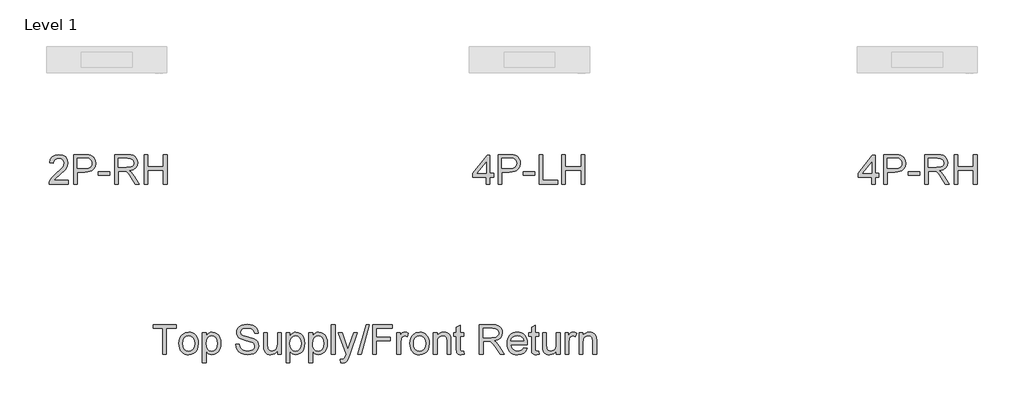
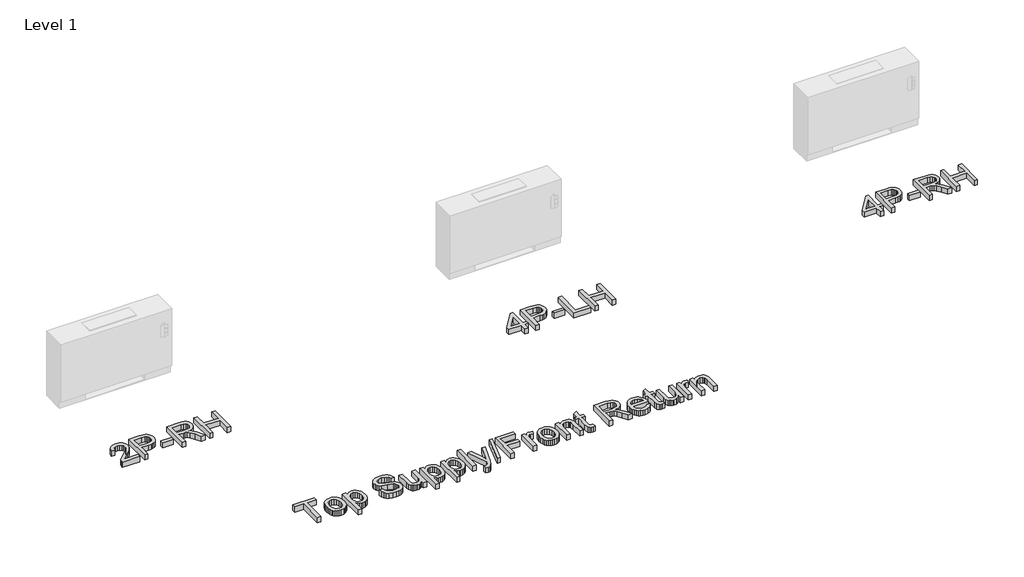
# One storey, part 3 of 3: 4 proxies.
"""IFC4 building model written with IfcOpenShell, lengths in millimetres."""

from ifc_helpers import new_model, si_unit, origin, origin_with_axes, place, context, project, spatial, polyline, outline, extrude, element, save

model = new_model("IFC4")

# Units and contexts
model_context = context("Model", 3, world=origin())
ifc_project = project(units=[si_unit("LENGTHUNIT", "METRE", prefix="MILLI")], contexts=[model_context])

# Site, building, storey
site = spatial("IfcSite", under=ifc_project)
building = spatial("IfcBuilding", under=site)
storey = spatial("IfcBuildingStorey", under=building, Name="Level 1", Elevation=0.0)

# Proxies
placement = place(None, origin())
element("IfcBuildingElementProxy", 1, Name="24\" Arial", ObjectType="24\" Arial", at=placement, inside=storey, context=model_context, shape_type="SweptSolid", body=[
    extrude(outline(polyline([(2472.5902636, -2291.4337764), (2472.5902636, -2231.6308793), (2356.9713292, -2231.6308793), (2356.9713292, -2199.7360008), (2480.5639833, -2040.2616085), (2504.4851421, -2040.2616085), (2504.4851421, -2199.7360008), (2536.3800206, -2199.7360008), (2536.3800206, -2231.6308793), (2504.4851421, -2231.6308793), (2504.4851421, -2291.4337764), (2472.5902636, -2291.4337764)]), holes=[polyline([(2472.5902636, -2199.7360008), (2472.5902636, -2101.1858099), (2396.2169804, -2199.7360008), (2472.5902636, -2199.7360008)])]), origin_with_axes(), (0.0, 0.0, 1.0), 50.8),
    extrude(outline(polyline([(2576.2486187, -2291.4337764), (2576.2486187, -2036.2747487), (2670.8119498, -2036.2747487), (2708.9362967, -2038.7042414), (2725.9349587, -2043.2439665), (2739.9279022, -2050.6336734), (2751.1954533, -2061.2081961), (2760.017938, -2075.3023685), (2765.7179016, -2091.9272624), (2767.6178895, -2110.0939498), (2762.4863649, -2140.1667088), (2747.091791, -2165.2247456), (2734.7632836, -2175.0906663), (2718.3038599, -2182.1377525), (2697.7135199, -2186.3660042), (2672.9922637, -2187.7754214), (2608.1434971, -2187.7754214), (2608.1434971, -2291.4337764), (2576.2486187, -2291.4337764)]), holes=[polyline([(2608.1434971, -2155.8805429), (2674.8611043, -2155.8805429), (2703.142891, -2152.9526928), (2721.8312964, -2144.1691422), (2732.2500824, -2130.0749699), (2735.723011, -2111.2152541), (2733.6750733, -2096.8874767), (2727.53126, -2084.8023079), (2718.0546811, -2075.707284), (2706.0084465, -2070.3499411), (2674.113568, -2068.1696271), (2608.1434971, -2068.1696271), (2608.1434971, -2155.8805429)])]), origin_with_axes(), (0.0, 0.0, 1.0), 50.8),
    extrude(outline(polyline([(2791.5390484, -2215.6834401), (2791.5390484, -2183.7885616), (2891.2105436, -2183.7885616), (2891.2105436, -2215.6834401), (2791.5390484, -2215.6834401)])), origin_with_axes(), (0.0, 0.0, 1.0), 50.8),
    extrude(outline(polyline([(2931.0791417, -2291.4337764), (2931.0791417, -2036.2747487), (2962.9740202, -2036.2747487), (2962.9740202, -2259.538898), (3090.553534, -2259.538898), (3090.553534, -2291.4337764), (2931.0791417, -2291.4337764)])), origin_with_axes(), (0.0, 0.0, 1.0), 50.8),
    extrude(outline(polyline([(3126.4352723, -2291.4337764), (3126.4352723, -2036.2747487), (3158.3301508, -2036.2747487), (3158.3301508, -2139.9331037), (3293.8833843, -2139.9331037), (3293.8833843, -2036.2747487), (3325.7782628, -2036.2747487), (3325.7782628, -2291.4337764), (3293.8833843, -2291.4337764), (3293.8833843, -2171.8279822), (3158.3301508, -2171.8279822), (3158.3301508, -2291.4337764), (3126.4352723, -2291.4337764)])), origin_with_axes(), (0.0, 0.0, 1.0), 50.8),
])
element("IfcBuildingElementProxy", 2, Name="24\" Arial", ObjectType="24\" Arial", at=placement, inside=storey, context=model_context, shape_type="SweptSolid", body=[
    extrude(outline(polyline([(5805.7276029, -2291.4337764), (5805.7276029, -2231.6308793), (5690.1086684, -2231.6308793), (5690.1086684, -2199.7360008), (5813.7013225, -2040.2616085), (5837.6224813, -2040.2616085), (5837.6224813, -2199.7360008), (5869.5173598, -2199.7360008), (5869.5173598, -2231.6308793), (5837.6224813, -2231.6308793), (5837.6224813, -2291.4337764), (5805.7276029, -2291.4337764)]), holes=[polyline([(5805.7276029, -2199.7360008), (5805.7276029, -2101.1858099), (5729.3543196, -2199.7360008), (5805.7276029, -2199.7360008)])]), origin_with_axes(), (0.0, 0.0, 1.0), 50.8),
    extrude(outline(polyline([(5909.3859579, -2291.4337764), (5909.3859579, -2036.2747487), (6003.949289, -2036.2747487), (6042.0736359, -2038.7042414), (6059.0722979, -2043.2439665), (6073.0652415, -2050.6336734), (6084.3327925, -2061.2081961), (6093.1552772, -2075.3023685), (6098.8552408, -2091.9272624), (6100.7552287, -2110.0939498), (6095.6237041, -2140.1667088), (6080.2291302, -2165.2247456), (6067.9006228, -2175.0906663), (6051.4411991, -2182.1377525), (6030.8508592, -2186.3660042), (6006.1296029, -2187.7754214), (5941.2808364, -2187.7754214), (5941.2808364, -2291.4337764), (5909.3859579, -2291.4337764)]), holes=[polyline([(5941.2808364, -2155.8805429), (6007.9984435, -2155.8805429), (6036.2802302, -2152.9526928), (6054.9686356, -2144.1691422), (6065.3874216, -2130.0749699), (6068.8603503, -2111.2152541), (6066.8124125, -2096.8874767), (6060.6685992, -2084.8023079), (6051.1920204, -2075.707284), (6039.1457857, -2070.3499411), (6007.2509073, -2068.1696271), (5941.2808364, -2068.1696271), (5941.2808364, -2155.8805429)])]), origin_with_axes(), (0.0, 0.0, 1.0), 50.8),
    extrude(outline(polyline([(6124.6763876, -2215.6834401), (6124.6763876, -2183.7885616), (6224.3478828, -2183.7885616), (6224.3478828, -2215.6834401), (6124.6763876, -2215.6834401)])), origin_with_axes(), (0.0, 0.0, 1.0), 50.8),
    extrude(outline(polyline([(6264.2164809, -2291.4337764), (6264.2164809, -2036.2747487), (6374.1665991, -2036.2747487), (6403.71764, -2037.9956393), (6425.217093, -2043.1583113), (6440.9309272, -2052.689398), (6453.1251117, -2067.5155329), (6460.9508814, -2085.9002517), (6463.5594713, -2106.10709), (6459.2377776, -2131.2429952), (6446.2726964, -2152.0805672), (6424.2748859, -2167.3583385), (6392.8550044, -2175.814842), (6410.9827576, -2189.4573779), (6436.8350517, -2222.2866766), (6479.3823212, -2291.4337764), (6442.3169839, -2291.4337764), (6409.1139171, -2238.5455893), (6385.1304635, -2203.5359766), (6368.2797514, -2186.9967378), (6353.1109957, -2180.9230061), (6334.6094744, -2179.8017018), (6296.1113594, -2179.8017018), (6296.1113594, -2291.4337764), (6264.2164809, -2291.4337764)]), holes=[polyline([(6296.1113594, -2147.9068233), (6367.5010678, -2147.9068233), (6403.9123109, -2143.3904587), (6415.888464, -2137.5191847), (6424.5941462, -2128.9380919), (6429.8969812, -2118.5582401), (6431.6645929, -2107.290689), (6428.2928931, -2091.7325915), (6418.1777937, -2079.1957863), (6400.7742162, -2070.9261669), (6375.5370821, -2068.1696271), (6296.1113594, -2068.1696271), (6296.1113594, -2147.9068233)])]), origin_with_axes(), (0.0, 0.0, 1.0), 50.8),
    extrude(outline(polyline([(6519.3755087, -2291.4337764), (6519.3755087, -2036.2747487), (6551.2703871, -2036.2747487), (6551.2703871, -2139.9331037), (6686.8236207, -2139.9331037), (6686.8236207, -2036.2747487), (6718.7184991, -2036.2747487), (6718.7184991, -2291.4337764), (6686.8236207, -2291.4337764), (6686.8236207, -2171.8279822), (6551.2703871, -2171.8279822), (6551.2703871, -2291.4337764), (6519.3755087, -2291.4337764)])), origin_with_axes(), (0.0, 0.0, 1.0), 50.8),
])
element("IfcBuildingElementProxy", 3, Name="24\" Arial", ObjectType="24\" Arial", at=placement, inside=storey, context=model_context, shape_type="SweptSolid", body=[
    extrude(outline(polyline([(-1140.457121, -2259.538898), (-1140.457121, -2291.4337764), (-1307.905233, -2291.4337764), (-1304.4790253, -2269.4437528), (-1296.6143214, -2252.2582067), (-1285.1053785, -2235.5865918), (-1245.1744857, -2198.6146965), (-1210.7566725, -2168.0435801), (-1190.1059846, -2145.4773306), (-1179.7806406, -2127.1626934), (-1176.3388593, -2109.3464136), (-1179.5859697, -2093.3756138), (-1189.327301, -2080.0990592), (-1204.3013858, -2071.1519851), (-1223.2467567, -2068.1696271), (-1243.1421216, -2071.0819036), (-1258.5989902, -2079.8187331), (-1268.5739266, -2093.6948741), (-1272.0234947, -2112.025085), (-1303.9183732, -2108.0382252), (-1296.1860455, -2077.1867827), (-1279.4677095, -2054.6516806), (-1254.6354909, -2040.8689816), (-1222.5615152, -2036.2747487), (-1190.2539345, -2041.3829128), (-1165.4684368, -2056.7074052), (-1149.7000948, -2079.6007017), (-1144.4439808, -2107.4152784), (-1150.1127971, -2137.6593477), (-1168.9569392, -2168.9312793), (-1214.6500903, -2212.6310005), (-1251.3416595, -2243.3111326), (-1265.7317316, -2259.538898), (-1140.457121, -2259.538898)])), origin_with_axes(), (0.0, 0.0, 1.0), 50.8),
    extrude(outline(polyline([(-1096.6016631, -2291.4337764), (-1096.6016631, -2036.2747487), (-1002.038332, -2036.2747487), (-963.9139851, -2038.7042414), (-946.9153231, -2043.2439665), (-932.9223795, -2050.6336734), (-921.6548285, -2061.2081961), (-912.8323438, -2075.3023685), (-907.1323802, -2091.9272624), (-905.2323923, -2110.0939498), (-910.3639169, -2140.1667088), (-925.7584908, -2165.2247456), (-938.0869982, -2175.0906663), (-954.5464219, -2182.1377525), (-975.1367619, -2186.3660042), (-999.8580181, -2187.7754214), (-1064.7067846, -2187.7754214), (-1064.7067846, -2291.4337764), (-1096.6016631, -2291.4337764)]), holes=[polyline([(-1064.7067846, -2155.8805429), (-997.9891775, -2155.8805429), (-969.7073908, -2152.9526928), (-951.0189854, -2144.1691422), (-940.6001994, -2130.0749699), (-937.1272708, -2111.2152541), (-939.1752085, -2096.8874767), (-945.3190218, -2084.8023079), (-954.7956007, -2075.707284), (-966.8418353, -2070.3499411), (-998.7367137, -2068.1696271), (-1064.7067846, -2068.1696271), (-1064.7067846, -2155.8805429)])]), origin_with_axes(), (0.0, 0.0, 1.0), 50.8),
    extrude(outline(polyline([(-881.3112334, -2215.6834401), (-881.3112334, -2183.7885616), (-781.6397382, -2183.7885616), (-781.6397382, -2215.6834401), (-881.3112334, -2215.6834401)])), origin_with_axes(), (0.0, 0.0, 1.0), 50.8),
    extrude(outline(polyline([(-741.7711401, -2291.4337764), (-741.7711401, -2036.2747487), (-631.8210219, -2036.2747487), (-602.269981, -2037.9956393), (-580.770528, -2043.1583113), (-565.0566938, -2052.689398), (-552.8625093, -2067.5155329), (-545.0367396, -2085.9002517), (-542.4281497, -2106.10709), (-546.7498434, -2131.2429952), (-559.7149246, -2152.0805672), (-581.7127351, -2167.3583385), (-613.1326166, -2175.814842), (-595.0048634, -2189.4573779), (-569.1525693, -2222.2866766), (-526.6052998, -2291.4337764), (-563.6706371, -2291.4337764), (-596.8737039, -2238.5455893), (-620.8571575, -2203.5359766), (-637.7078696, -2186.9967378), (-652.8766253, -2180.9230061), (-671.3781466, -2179.8017018), (-709.8762616, -2179.8017018), (-709.8762616, -2291.4337764), (-741.7711401, -2291.4337764)]), holes=[polyline([(-709.8762616, -2147.9068233), (-638.4865532, -2147.9068233), (-602.0753101, -2143.3904587), (-590.099157, -2137.5191847), (-581.3934748, -2128.9380919), (-576.0906398, -2118.5582401), (-574.3230281, -2107.290689), (-577.6947279, -2091.7325915), (-587.8098273, -2079.1957863), (-605.2134048, -2070.9261669), (-630.4505389, -2068.1696271), (-709.8762616, -2068.1696271), (-709.8762616, -2147.9068233)])]), origin_with_axes(), (0.0, 0.0, 1.0), 50.8),
    extrude(outline(polyline([(-486.6121123, -2291.4337764), (-486.6121123, -2036.2747487), (-454.7172339, -2036.2747487), (-454.7172339, -2139.9331037), (-319.1640003, -2139.9331037), (-319.1640003, -2036.2747487), (-287.2691219, -2036.2747487), (-287.2691219, -2291.4337764), (-319.1640003, -2291.4337764), (-319.1640003, -2171.8279822), (-454.7172339, -2171.8279822), (-454.7172339, -2291.4337764), (-486.6121123, -2291.4337764)])), origin_with_axes(), (0.0, 0.0, 1.0), 50.8),
])
element("IfcBuildingElementProxy", 4, Name="24\" Arial", ObjectType="24\" Arial", at=placement, inside=storey, context=model_context, shape_type="SweptSolid", body=[
    extrude(outline(polyline([(-324.4480727, -3763.7936295), (-324.4480727, -3540.5294801), (-408.1721287, -3540.5294801), (-408.1721287, -3508.6346017), (-208.8291382, -3508.6346017), (-208.8291382, -3540.5294801), (-292.5531942, -3540.5294801), (-292.5531942, -3763.7936295), (-324.4480727, -3763.7936295)])), origin_with_axes(), (0.0, 0.0, 1.0), 50.8),
    extrude(outline(polyline([(-184.9079794, -3670.1024239), (-183.1831953, -3645.8347509), (-178.0088431, -3624.923204), (-169.3849227, -3607.3677832), (-157.3114341, -3593.1684886), (-131.7394661, -3577.6103911), (-101.1216287, -3572.4243586), (-83.525327, -3574.0031395), (-67.6148753, -3578.7394823), (-53.3902734, -3586.6333868), (-40.8515214, -3597.6848532), (-30.6176728, -3611.5201133), (-23.3077809, -3627.765399), (-18.9218458, -3646.4207103), (-17.4598674, -3667.4860472), (-20.0450968, -3699.7079728), (-27.800785, -3724.2365048), (-40.5011138, -3742.6056499), (-57.920265, -3756.3494147), (-78.6098871, -3764.9227206), (-101.1216287, -3767.7804893), (-118.9748959, -3766.2075485), (-135.0332976, -3761.4887261), (-149.2968336, -3753.6240222), (-161.7655041, -3742.6134367), (-171.890337, -3728.6438537), (-179.1223606, -3711.9021573), (-183.4615747, -3692.3883473), (-184.9079794, -3670.1024239)]), holes=[polyline([(-153.0131009, -3670.0401293), (-149.3221408, -3698.9059287), (-138.2492607, -3719.4709614), (-121.5854326, -3731.7819484), (-101.1216287, -3735.8856108), (-80.7512669, -3731.7585879), (-64.1185861, -3719.3775194), (-53.0457059, -3698.5399474), (-49.3547459, -3669.0434143), (-53.0690664, -3641.0185931), (-64.2120281, -3620.7338865), (-80.8680694, -3608.4228994), (-101.1216287, -3604.3192371), (-121.5854326, -3608.4073258), (-138.2492607, -3620.6715918), (-149.3221408, -3641.1899035), (-153.0131009, -3670.0401293)])]), origin_with_axes(), (0.0, 0.0, 1.0), 50.8),
    extrude(outline(polyline([(18.4218709, -3835.557106), (18.4218709, -3576.4112184), (50.3167494, -3576.4112184), (50.3167494, -3607.6831501), (60.7199617, -3592.2574288), (72.3690677, -3581.2390565), (85.9493089, -3574.6280331), (102.1459269, -3572.4243586), (123.7154614, -3575.5079455), (142.5751771, -3584.7587062), (157.9308169, -3599.6159884), (168.9881234, -3619.5191401), (175.6692283, -3643.0198098), (177.8962632, -3668.6696462), (175.3811154, -3695.9469312), (167.8356717, -3720.343087), (155.5013242, -3740.6200068), (138.6194647, -3755.5395838), (118.9577049, -3764.7202629), (98.2836564, -3767.7804893), (83.6210451, -3765.7325515), (70.5313745, -3759.5887382), (50.3167494, -3738.8757556), (50.3167494, -3835.557106), (18.4218709, -3835.557106)]), holes=[polyline([(50.3167494, -3671.5974964), (53.7663175, -3700.1907566), (64.115022, -3720.1873503), (79.3850065, -3731.9610457), (97.5984149, -3735.8856108), (116.107723, -3731.8208826), (131.7670494, -3719.6266981), (142.4428009, -3698.8981419), (146.0013848, -3669.2302984), (142.5284561, -3640.7927749), (132.1096701, -3620.5158551), (116.8630461, -3608.3683916), (98.9066033, -3604.3192371), (80.8800789, -3608.6253572), (65.0494422, -3621.5437174), (53.9999226, -3642.6694022), (50.3167494, -3671.5974964)])]), origin_with_axes(), (0.0, 0.0, 1.0), 50.8),
    extrude(outline(polyline([(305.4757771, -3676.0827137), (337.3706556, -3676.0827137), (341.0304683, -3693.7821909), (347.6492786, -3708.0087395), (357.9746225, -3719.299651), (372.7540364, -3728.1922173), (390.8194949, -3733.9622624), (411.0029727, -3735.8856108), (428.7725315, -3734.4294725), (444.3306289, -3730.0610578), (456.9375157, -3723.1463478), (465.8534424, -3714.0513239), (471.1562774, -3703.6091774), (472.9238891, -3692.6530997), (467.6288409, -3672.749948), (459.5616793, -3664.8774573), (445.9502907, -3658.2664339), (399.5096034, -3646.0878231), (349.5181191, -3630.3584152), (333.6407614, -3619.6281558), (322.388784, -3606.6241404), (315.6843186, -3591.6266951), (313.4494968, -3574.916146), (316.2138234, -3556.2355275), (324.5068033, -3538.8163763), (338.110405, -3524.0525361), (356.8065972, -3513.3378504), (379.2482573, -3506.820269), (404.0882627, -3504.6477419), (430.9995664, -3506.9214978), (454.5469572, -3513.7427658), (473.8894567, -3524.9713827), (488.1860868, -3540.4671855), (497.2343898, -3559.2646065), (500.8319078, -3580.3980782), (468.9370293, -3580.3980782), (463.081329, -3561.3670521), (450.8715708, -3547.6310742), (431.7938237, -3539.3147338), (405.3341564, -3536.5426203), (378.2515423, -3539.2835865), (359.6721527, -3547.5064848), (348.9263196, -3559.6072273), (345.3443752, -3573.9817257), (347.8828836, -3586.2382049), (355.4984088, -3596.0963387), (373.5015726, -3604.9110366), (407.5767651, -3613.9126185), (464.0157492, -3629.9223524), (482.1980103, -3641.4935901), (494.8827654, -3655.7746465), (502.334767, -3672.609785), (504.8187676, -3691.8432688), (501.9609989, -3711.5050286), (493.387693, -3729.9987631), (479.4492573, -3745.915055), (460.4960996, -3757.8444871), (437.7040319, -3765.2964887), (412.2488664, -3767.7804893), (381.0002953, -3765.1018178), (355.2803774, -3757.0658035), (334.793213, -3743.641299), (319.2429024, -3724.7971569), (309.2601792, -3701.8415657), (305.4757771, -3676.0827137)])), origin_with_axes(), (0.0, 0.0, 1.0), 50.8),
    extrude(outline(polyline([(668.2800198, -3763.7936295), (668.2800198, -3731.5872776), (656.7399295, -3747.4218077), (643.2998513, -3758.7321863), (627.9597852, -3765.5184135), (610.7197313, -3767.7804893), (595.1849943, -3766.1919748), (580.7248407, -3761.4264314), (568.5929509, -3754.2625427), (560.0430054, -3745.4789922), (550.543066, -3721.9938961), (548.6742255, -3692.3416263), (548.6742255, -3576.4112184), (580.569104, -3576.4112184), (580.569104, -3677.3286073), (582.5002392, -3709.8464327), (587.14898, -3720.6934946), (595.1149128, -3728.9397535), (605.8685327, -3734.1491465), (618.8803349, -3735.8856108), (632.6396734, -3734.1102123), (645.5113126, -3728.7840168), (656.1247694, -3720.3975949), (663.1095609, -3709.4415172), (666.9874051, -3694.4362851), (668.2800198, -3673.9023997), (668.2800198, -3576.4112184), (700.1748982, -3576.4112184), (700.1748982, -3763.7936295), (668.2800198, -3763.7936295)])), origin_with_axes(), (0.0, 0.0, 1.0), 50.8),
    extrude(outline(polyline([(744.0303561, -3835.557106), (744.0303561, -3576.4112184), (775.9252346, -3576.4112184), (775.9252346, -3607.6831501), (786.3284469, -3592.2574288), (797.9775529, -3581.2390565), (811.5577942, -3574.6280331), (827.7544121, -3572.4243586), (849.3239466, -3575.5079455), (868.1836624, -3584.7587062), (883.5393021, -3599.6159884), (894.5966086, -3619.5191401), (901.2777135, -3643.0198098), (903.5047485, -3668.6696462), (900.9896006, -3695.9469312), (893.4441569, -3720.343087), (881.1098094, -3740.6200068), (864.2279499, -3755.5395838), (844.5661901, -3764.7202629), (823.8921417, -3767.7804893), (809.2295303, -3765.7325515), (796.1398597, -3759.5887382), (775.9252346, -3738.8757556), (775.9252346, -3835.557106), (744.0303561, -3835.557106)]), holes=[polyline([(775.9252346, -3671.5974964), (779.3748028, -3700.1907566), (789.7235072, -3720.1873503), (804.9934918, -3731.9610457), (823.2069002, -3735.8856108), (841.7162083, -3731.8208826), (857.3755346, -3719.6266981), (868.0512862, -3698.8981419), (871.60987, -3669.2302984), (868.1369414, -3640.7927749), (857.7181554, -3620.5158551), (842.4715313, -3608.3683916), (824.5150885, -3604.3192371), (806.4885642, -3608.6253572), (790.6579275, -3621.5437174), (779.6084078, -3642.6694022), (775.9252346, -3671.5974964)])]), origin_with_axes(), (0.0, 0.0, 1.0), 50.8),
    extrude(outline(polyline([(939.3864868, -3835.557106), (939.3864868, -3576.4112184), (971.2813653, -3576.4112184), (971.2813653, -3607.6831501), (981.6845776, -3592.2574288), (993.3336836, -3581.2390565), (1006.9139248, -3574.6280331), (1023.1105428, -3572.4243586), (1044.6800773, -3575.5079455), (1063.539793, -3584.7587062), (1078.8954328, -3599.6159884), (1089.9527393, -3619.5191401), (1096.6338442, -3643.0198098), (1098.8608791, -3668.6696462), (1096.3457313, -3695.9469312), (1088.8002876, -3720.343087), (1076.4659401, -3740.6200068), (1059.5840806, -3755.5395838), (1039.9223208, -3764.7202629), (1019.2482723, -3767.7804893), (1004.585661, -3765.7325515), (991.4959904, -3759.5887382), (971.2813653, -3738.8757556), (971.2813653, -3835.557106), (939.3864868, -3835.557106)]), holes=[polyline([(971.2813653, -3671.5974964), (974.7309334, -3700.1907566), (985.0796379, -3720.1873503), (1000.3496224, -3731.9610457), (1018.5630308, -3735.8856108), (1037.0723389, -3731.8208826), (1052.7316653, -3719.6266981), (1063.4074168, -3698.8981419), (1066.9660007, -3669.2302984), (1063.493072, -3640.7927749), (1053.074286, -3620.5158551), (1037.827662, -3608.3683916), (1019.8712192, -3604.3192371), (1001.8446948, -3608.6253572), (986.0140581, -3621.5437174), (974.9645385, -3642.6694022), (971.2813653, -3671.5974964)])]), origin_with_axes(), (0.0, 0.0, 1.0), 50.8),
    extrude(outline(polyline([(1134.7426174, -3763.7936295), (1134.7426174, -3508.6346017), (1166.6374959, -3508.6346017), (1166.6374959, -3763.7936295), (1134.7426174, -3763.7936295)])), origin_with_axes(), (0.0, 0.0, 1.0), 50.8),
    extrude(outline(polyline([(1214.4798136, -3835.557106), (1210.4929538, -3804.8458265), (1226.6895718, -3807.6490874), (1241.8271801, -3804.1294377), (1251.1090881, -3794.3180249), (1259.8303439, -3770.8329288), (1262.3221313, -3763.1083879), (1194.5455146, -3576.4112184), (1228.1846442, -3576.4112184), (1264.1286772, -3680.4433416), (1276.6499088, -3722.0561908), (1289.1711403, -3685.302327), (1326.1118883, -3576.4112184), (1359.5018392, -3576.4112184), (1294.2793045, -3768.2788467), (1277.3351503, -3809.891696), (1268.6606155, -3823.1760375), (1258.833629, -3832.3800771), (1247.418128, -3837.7529936), (1233.9780499, -3839.5439658), (1214.4798136, -3835.557106)])), origin_with_axes(), (0.0, 0.0, 1.0), 50.8),
    extrude(outline(polyline([(1361.9936265, -3763.7936295), (1433.7571031, -3508.6346017), (1462.5372474, -3508.6346017), (1390.7737708, -3763.7936295), (1361.9936265, -3763.7936295)])), origin_with_axes(), (0.0, 0.0, 1.0), 50.8),
    extrude(outline(polyline([(1489.5731404, -3763.7936295), (1489.5731404, -3508.6346017), (1661.0081122, -3508.6346017), (1661.0081122, -3540.5294801), (1521.4680189, -3540.5294801), (1521.4680189, -3616.2798165), (1641.0738132, -3616.2798165), (1641.0738132, -3648.174695), (1521.4680189, -3648.174695), (1521.4680189, -3763.7936295), (1489.5731404, -3763.7936295)])), origin_with_axes(), (0.0, 0.0, 1.0), 50.8),
    extrude(outline(polyline([(1700.8767103, -3763.7936295), (1700.8767103, -3576.4112184), (1728.784729, -3576.4112184), (1728.784729, -3604.132353), (1739.0944993, -3588.0603244), (1748.5944387, -3578.5915324), (1758.1255254, -3573.9661521), (1768.5287377, -3572.4243586), (1784.4138822, -3574.8849987), (1800.5482055, -3582.2669188), (1789.8958145, -3610.860179), (1767.4697281, -3604.3192371), (1757.9464282, -3605.8921779), (1749.4354169, -3610.6110002), (1742.5596411, -3618.1175097), (1737.9420476, -3628.0535119), (1732.7715888, -3665.3057332), (1732.7715888, -3763.7936295), (1700.8767103, -3763.7936295)])), origin_with_axes(), (0.0, 0.0, 1.0), 50.8),
    extrude(outline(polyline([(1812.508785, -3670.1024239), (1814.233569, -3645.8347509), (1819.4079213, -3624.923204), (1828.0318417, -3607.3677832), (1840.1053302, -3593.1684886), (1865.6772982, -3577.6103911), (1896.2951356, -3572.4243586), (1913.8914373, -3574.0031395), (1929.8018891, -3578.7394823), (1944.0264909, -3586.6333868), (1956.5652429, -3597.6848532), (1966.7990916, -3611.5201133), (1974.1089834, -3627.765399), (1978.4949186, -3646.4207103), (1979.9568969, -3667.4860472), (1977.3716675, -3699.7079728), (1969.6159793, -3724.2365048), (1956.9156505, -3742.6056499), (1939.4964994, -3756.3494147), (1918.8068773, -3764.9227206), (1896.2951356, -3767.7804893), (1878.4418684, -3766.2075485), (1862.3834668, -3761.4887261), (1848.1199307, -3753.6240222), (1835.6512603, -3742.6134367), (1825.5264273, -3728.6438537), (1818.2944038, -3711.9021573), (1813.9551897, -3692.3883473), (1812.508785, -3670.1024239)]), holes=[polyline([(1844.4036634, -3670.0401293), (1848.0946235, -3698.9059287), (1859.1675037, -3719.4709614), (1875.8313318, -3731.7819484), (1896.2951356, -3735.8856108), (1916.6654975, -3731.7585879), (1933.2981782, -3719.3775194), (1944.3710584, -3698.5399474), (1948.0620185, -3669.0434143), (1944.3476979, -3641.0185931), (1933.2047362, -3620.7338865), (1916.5486949, -3608.4228994), (1896.2951356, -3604.3192371), (1875.8313318, -3608.4073258), (1859.1675037, -3620.6715918), (1848.0946235, -3641.1899035), (1844.4036634, -3670.0401293)])]), origin_with_axes(), (0.0, 0.0, 1.0), 50.8),
    extrude(outline(polyline([(2015.8386352, -3763.7936295), (2015.8386352, -3576.4112184), (2047.7335137, -3576.4112184), (2047.7335137, -3602.5749859), (2058.8141807, -3589.3840865), (2072.1218827, -3579.9620154), (2087.6566196, -3574.3087728), (2105.4183916, -3572.4243586), (2121.1400126, -3573.9427916), (2135.5378715, -3578.4980904), (2147.545172, -3585.521816), (2156.0951174, -3594.4455296), (2165.6573515, -3617.8994783), (2167.339308, -3648.7353472), (2167.339308, -3763.7936295), (2135.4444295, -3763.7936295), (2135.4444295, -3653.0336804), (2131.7690431, -3624.8141883), (2126.6842395, -3616.4121927), (2118.7806014, -3609.8946114), (2096.8840198, -3604.3192371), (2078.2034013, -3607.449545), (2062.2793225, -3616.8404687), (2051.3699659, -3634.9837955), (2047.7335137, -3664.371313), (2047.7335137, -3763.7936295), (2015.8386352, -3763.7936295)])), origin_with_axes(), (0.0, 0.0, 1.0), 50.8),
    extrude(outline(polyline([(2278.9713826, -3737.1937992), (2282.9582424, -3764.7280497), (2259.0993783, -3767.7804893), (2243.7904595, -3766.4567272), (2232.3749586, -3762.4854411), (2219.0438961, -3748.5937264), (2215.1816257, -3712.4005147), (2215.1816257, -3608.3060969), (2191.2604668, -3608.3060969), (2191.2604668, -3576.4112184), (2215.1816257, -3576.4112184), (2215.1816257, -3530.873804), (2247.0765042, -3512.123104), (2247.0765042, -3576.4112184), (2278.9713826, -3576.4112184), (2278.9713826, -3608.3060969), (2247.0765042, -3608.3060969), (2247.0765042, -3711.4660945), (2248.7584606, -3727.9118912), (2254.2092455, -3733.7364442), (2265.079668, -3735.8856108), (2278.9713826, -3737.1937992)])), origin_with_axes(), (0.0, 0.0, 1.0), 50.8),
    extrude(outline(polyline([(2414.5246161, -3763.7936295), (2414.5246161, -3508.6346017), (2524.4747343, -3508.6346017), (2554.0257753, -3510.3554923), (2575.5252283, -3515.5181643), (2591.2390624, -3525.049251), (2603.4332469, -3539.875386), (2611.2590167, -3558.2601047), (2613.8676066, -3578.466943), (2609.5459128, -3603.6028482), (2596.5808316, -3624.4404202), (2574.5830212, -3639.7181916), (2543.1631397, -3648.174695), (2561.2908929, -3661.8172309), (2587.1431869, -3694.6465296), (2629.6904565, -3763.7936295), (2592.6251192, -3763.7936295), (2559.4220523, -3710.9054423), (2535.4385988, -3675.8958296), (2518.5878866, -3659.3565909), (2503.4191309, -3653.2828591), (2484.9176096, -3652.1615548), (2446.4194946, -3652.1615548), (2446.4194946, -3763.7936295), (2414.5246161, -3763.7936295)]), holes=[polyline([(2446.4194946, -3620.2666763), (2517.8092031, -3620.2666763), (2554.2204462, -3615.7503117), (2566.1965993, -3609.8790377), (2574.9022814, -3601.2979449), (2580.2051164, -3590.9180931), (2581.9727281, -3579.650542), (2578.6010283, -3564.0924446), (2568.4859289, -3551.5556393), (2551.0823514, -3543.2860199), (2525.8452174, -3540.5294801), (2446.4194946, -3540.5294801), (2446.4194946, -3620.2666763)])]), origin_with_axes(), (0.0, 0.0, 1.0), 50.8),
    extrude(outline(polyline([(2796.8893897, -3707.9775921), (2828.1613213, -3711.9644519), (2816.8937703, -3735.5274164), (2798.9139669, -3753.1412384), (2774.6268268, -3764.1206765), (2744.4372653, -3767.7804893), (2724.6470227, -3766.2017084), (2707.0137336, -3761.4653656), (2691.5373979, -3753.5714611), (2678.2180157, -3742.5199947), (2667.5072234, -3728.6185465), (2659.8566574, -3712.1746965), (2655.2663179, -3693.1884447), (2653.7362047, -3671.6597911), (2655.2818915, -3649.4011216), (2659.9189521, -3629.7821894), (2667.6473864, -3612.8029944), (2678.4671944, -3598.4635367), (2691.7515359, -3587.0713963), (2706.8735706, -3578.9341532), (2723.8332984, -3574.0518073), (2742.6307195, -3572.4243586), (2760.8227141, -3574.0479138), (2777.2743509, -3578.9185795), (2791.98563, -3587.0363556), (2804.9565513, -3598.4012421), (2815.544701, -3612.7095524), (2823.107665, -3629.6576), (2827.6454435, -3649.2453849), (2829.1580363, -3671.472907), (2828.9711522, -3680.0695735), (2685.6310831, -3680.0695735), (2691.1519496, -3703.9440113), (2703.9768677, -3721.4955387), (2722.4861759, -3732.2880928), (2745.0602122, -3735.8856108), (2762.0355137, -3734.219228), (2776.3321438, -3729.2200795), (2787.9501025, -3720.5766921), (2796.8893897, -3707.9775921)]), holes=[polyline([(2685.6310831, -3648.174695), (2797.2631578, -3648.174695), (2792.9492509, -3631.3239828), (2784.4927475, -3619.2699614), (2765.8977841, -3608.0569182), (2742.5061301, -3604.3192371), (2721.0066771, -3607.3015951), (2703.2293315, -3616.2486692), (2690.8716235, -3630.1948917), (2685.6310831, -3648.174695)])]), origin_with_axes(), (0.0, 0.0, 1.0), 50.8),
    extrude(outline(polyline([(2928.8295315, -3737.1937992), (2932.8163913, -3764.7280497), (2908.9575271, -3767.7804893), (2893.6486084, -3766.4567272), (2882.2331075, -3762.4854411), (2868.902045, -3748.5937264), (2865.0397746, -3712.4005147), (2865.0397746, -3608.3060969), (2841.1186157, -3608.3060969), (2841.1186157, -3576.4112184), (2865.0397746, -3576.4112184), (2865.0397746, -3530.873804), (2896.934653, -3512.123104), (2896.934653, -3576.4112184), (2928.8295315, -3576.4112184), (2928.8295315, -3608.3060969), (2896.934653, -3608.3060969), (2896.934653, -3711.4660945), (2898.6166095, -3727.9118912), (2904.0673944, -3733.7364442), (2914.9378169, -3735.8856108), (2928.8295315, -3737.1937992)])), origin_with_axes(), (0.0, 0.0, 1.0), 50.8),
    extrude(outline(polyline([(3080.3302042, -3763.7936295), (3080.3302042, -3731.5872776), (3068.7901139, -3747.4218077), (3055.3500358, -3758.7321863), (3040.0099697, -3765.5184135), (3022.7699158, -3767.7804893), (3007.2351788, -3766.1919748), (2992.7750252, -3761.4264314), (2980.6431353, -3754.2625427), (2972.0931899, -3745.4789922), (2962.5932505, -3721.9938961), (2960.72441, -3692.3416263), (2960.72441, -3576.4112184), (2992.6192884, -3576.4112184), (2992.6192884, -3677.3286073), (2994.5504237, -3709.8464327), (2999.1991645, -3720.6934946), (3007.1650973, -3728.9397535), (3017.9187172, -3734.1491465), (3030.9305194, -3735.8856108), (3044.6898579, -3734.1102123), (3057.5614971, -3728.7840168), (3068.1749539, -3720.3975949), (3075.1597454, -3709.4415172), (3079.0375895, -3694.4362851), (3080.3302042, -3673.9023997), (3080.3302042, -3576.4112184), (3112.2250827, -3576.4112184), (3112.2250827, -3763.7936295), (3080.3302042, -3763.7936295)])), origin_with_axes(), (0.0, 0.0, 1.0), 50.8),
    extrude(outline(polyline([(3156.0805406, -3763.7936295), (3156.0805406, -3576.4112184), (3183.9885593, -3576.4112184), (3183.9885593, -3604.132353), (3194.2983296, -3588.0603244), (3203.798269, -3578.5915324), (3213.3293557, -3573.9661521), (3223.732568, -3572.4243586), (3239.6177126, -3574.8849987), (3255.7520358, -3582.2669188), (3245.0996448, -3610.860179), (3222.6735584, -3604.3192371), (3213.1502585, -3605.8921779), (3204.6392472, -3610.6110002), (3197.7634714, -3618.1175097), (3193.1458779, -3628.0535119), (3187.9754191, -3665.3057332), (3187.9754191, -3763.7936295), (3156.0805406, -3763.7936295)])), origin_with_axes(), (0.0, 0.0, 1.0), 50.8),
    extrude(outline(polyline([(3275.6863349, -3763.7936295), (3275.6863349, -3576.4112184), (3307.5812134, -3576.4112184), (3307.5812134, -3602.5749859), (3318.6618804, -3589.3840865), (3331.9695824, -3579.9620154), (3347.5043193, -3574.3087728), (3365.2660912, -3572.4243586), (3380.9877122, -3573.9427916), (3395.3855712, -3578.4980904), (3407.3928716, -3585.521816), (3415.9428171, -3594.4455296), (3425.5050512, -3617.8994783), (3427.1870076, -3648.7353472), (3427.1870076, -3763.7936295), (3395.2921292, -3763.7936295), (3395.2921292, -3653.0336804), (3391.6167428, -3624.8141883), (3386.5319392, -3616.4121927), (3378.6283011, -3609.8946114), (3356.7317194, -3604.3192371), (3338.0511009, -3607.449545), (3322.1270222, -3616.8404687), (3311.2176656, -3634.9837955), (3307.5812134, -3664.371313), (3307.5812134, -3763.7936295), (3275.6863349, -3763.7936295)])), origin_with_axes(), (0.0, 0.0, 1.0), 50.8),
])

save(model, "model.ifc")
